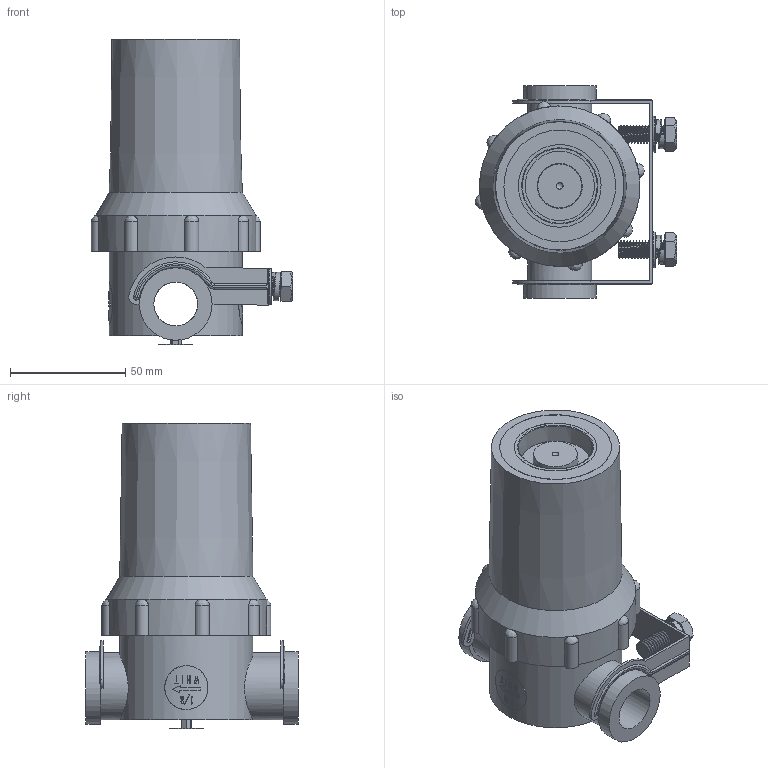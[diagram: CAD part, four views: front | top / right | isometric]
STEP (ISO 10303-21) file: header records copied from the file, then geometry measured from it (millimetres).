
FILE_DESCRIPTION(/* description */ ('FILTRO x VUOTO'),/* implementation_level */ '2;1');
FILE_NAME(/* name */ 'C:\PNX_VAULTFOLDER\Area Tecnica\Disegni\VARIE-3D\Componenti\1900 (vuoto)\19F12_V_00.stp',/* time_stamp */ '2019-09-13T15:00:59+02:00',/* author */ ('maniean1'),/* organization */ (''),/* preprocessor_version */ 'ST-DEVELOPER v17',/* originating_system */ 'Autodesk Inventor 2019',/* authorisation */ '');
FILE_SCHEMA (('AUTOMOTIVE_DESIGN { 1 0 10303 214 3 1 1 }'));
Length unit declared in the file: millimetre
Products named in the file (1): 19F12.V.00
Bounding box: 87.14 x 91.9 x 132.5 mm (x, y, z)
Surface area: 52668.3 mm2 (no closed solid volume)
Topology: 0 solids, 10 shells, 327 faces, 1325 edges, 966 vertices
Faces by surface type: bspline 112, cylinder 99, plane 83, torus 22, cone 10, sphere 1
Full cylindrical faces by diameter (mm): 8 x30, 8.5 x2, 11.4 x2, 15.8 x2, 19 x2, 27.7 x2, 31.4 x2, 35.8 x1, 48.4 x1, 57.5 x1, 59 x1, 69.5 x1
Entity records: 36764 total; most frequent: CARTESIAN_POINT 26835, ORIENTED_EDGE 2088, DIRECTION 1723, EDGE_CURVE 1325, VERTEX_POINT 966, AXIS2_PLACEMENT_3D 613, LINE 497, VECTOR 497
